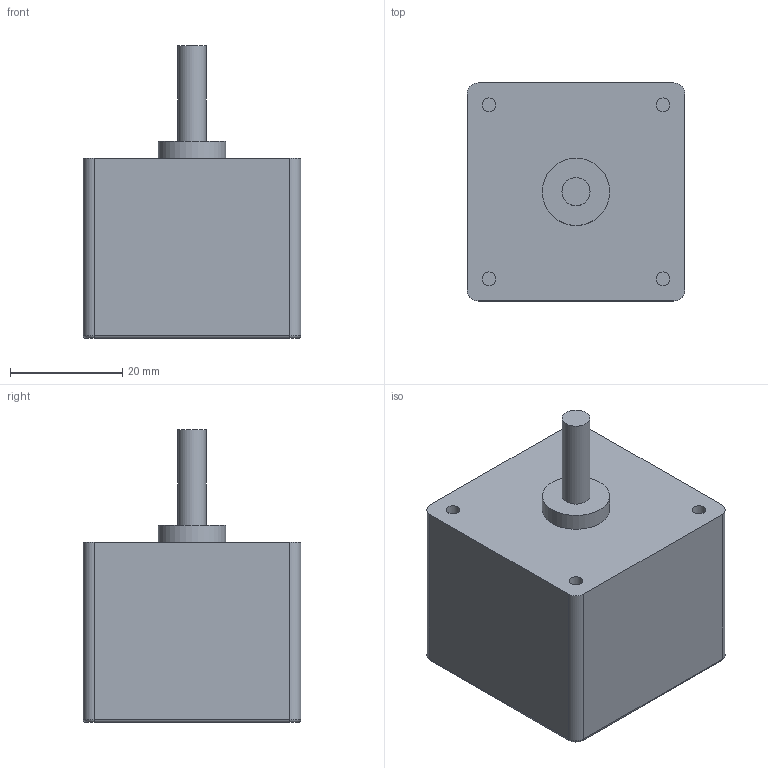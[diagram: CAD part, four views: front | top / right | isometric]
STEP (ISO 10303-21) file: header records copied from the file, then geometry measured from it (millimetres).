
FILE_DESCRIPTION(/* description */ ('Alibre Inc.'),/* implementation_level */ '2;1');
FILE_NAME(/* name */ 'export0',/* time_stamp */ '2013-07-26T09:15:50-06:00',/* author */ (''),/* organization */ (''),/* preprocessor_version */ 'ST-DEVELOPER v14',/* originating_system */ 'Alibre',/* authorisation */ '');
FILE_SCHEMA (('ALIBRE_SCHEMA','CONFIG_CONTROL_DESIGN'));
Length unit declared in the file: centimetre
Products named in the file (1): ID_1
Bounding box: 38.8 x 38.8 x 52.1 mm (x, y, z)
Volume: 48822.4 mm3; surface area: 8315.9 mm2
Topology: 1 solids, 1 shells, 30 faces, 58 edges, 36 vertices
Faces by surface type: cylinder 14, plane 12, torus 4
Full cylindrical faces by diameter (mm): 2.459 x4, 5 x1, 12 x1
Entity records: 1922 total; most frequent: CARTESIAN_POINT 257, DIRECTION 171, CONSTRAINTPAIRUV 130, REFERENCEDEPENDENTUV 106, ORIENTED_EDGE 104, REFERENCEPOINTUV 79, AXIS2_PLACEMENT_3D 70, PERSISTANTTOPOLOGYATTRIBUTE 63
